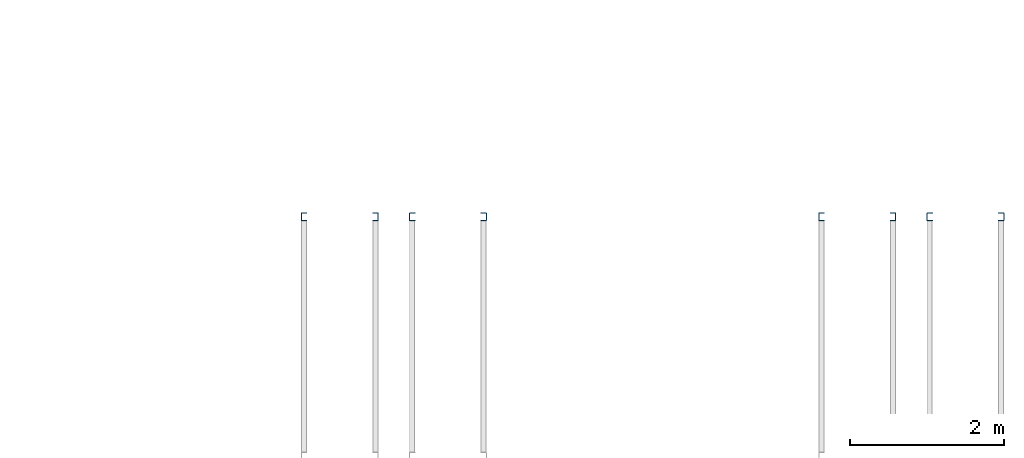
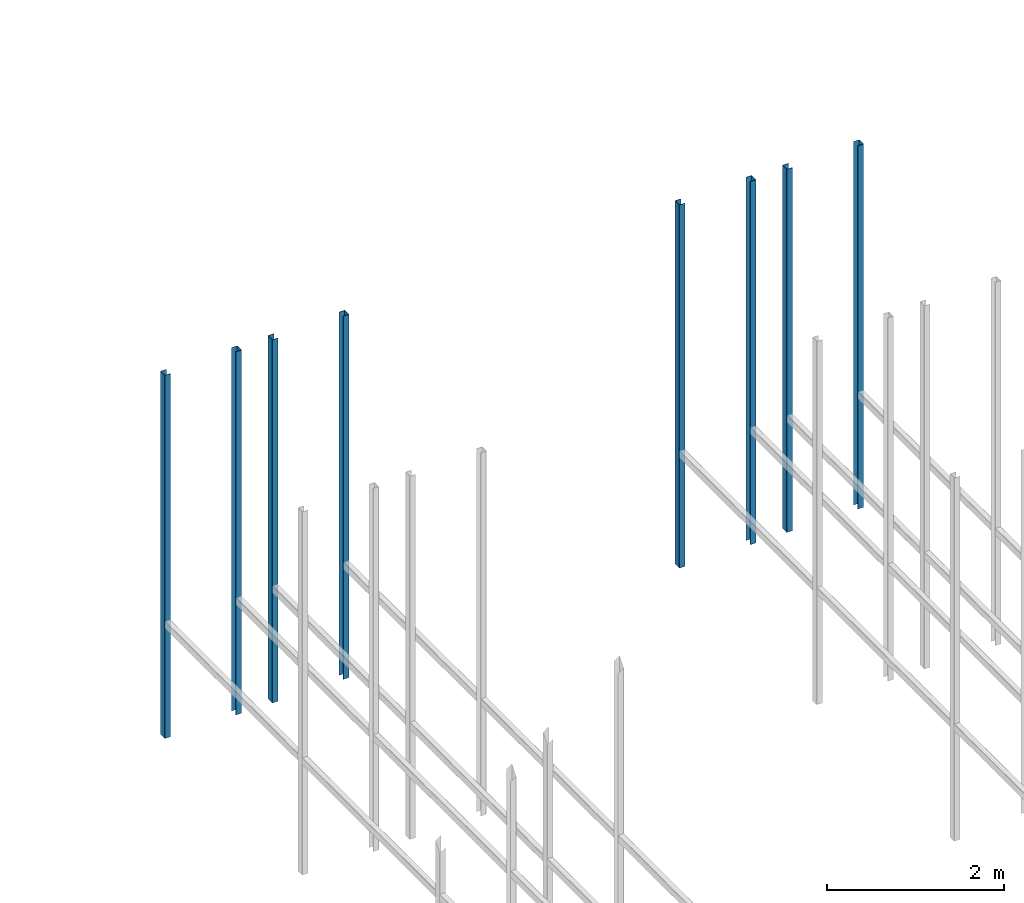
# One storey, part 64 of 302: 8 columns.
"""IFC2X3 building model written with IfcOpenShell, lengths in metres."""

from ifc_helpers import new_model, entity, si_unit, converted_unit, derived_unit, direction, frame, frame_2d, origin, place, context, subcontext, project, spatial, polyline, circle_curve, parameter, trimmed, segment, composite_curve, outline, extrude, source, transform, mapped, material, type_object, type_shapes, element, save


model = new_model("IFC2X3")

# Units and contexts
model_context = context("Model", 3, precision=1e-05, world=origin(), true_north=direction((6.12303176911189e-17, 1.0)))
body_context = subcontext(model_context, "Body", "Model", "MODEL_VIEW")
ifc_project = project(units=[si_unit("LENGTHUNIT", "METRE"), si_unit("AREAUNIT", "SQUARE_METRE"), si_unit("VOLUMEUNIT", "CUBIC_METRE"), converted_unit("PLANEANGLEUNIT", "DEGREE", entity("IfcRatioMeasure", 0.0174532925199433), si_unit("PLANEANGLEUNIT", "RADIAN"), dimensions=[0, 0, 0, 0, 0, 0, 0]), si_unit("MASSUNIT", "GRAM", prefix="KILO"), derived_unit("MASSDENSITYUNIT", [(si_unit("MASSUNIT", "GRAM", prefix="KILO"), 1), (si_unit("LENGTHUNIT", "METRE"), -3)]), derived_unit("MOMENTOFINERTIAUNIT", [(si_unit("LENGTHUNIT", "METRE"), 4)]), si_unit("TIMEUNIT", "SECOND"), si_unit("FREQUENCYUNIT", "HERTZ"), si_unit("THERMODYNAMICTEMPERATUREUNIT", "DEGREE_CELSIUS"), derived_unit("THERMALTRANSMITTANCEUNIT", [(si_unit("MASSUNIT", "GRAM", prefix="KILO"), 1), (si_unit("THERMODYNAMICTEMPERATUREUNIT", "KELVIN"), -1), (si_unit("TIMEUNIT", "SECOND"), -3)]), derived_unit("VOLUMETRICFLOWRATEUNIT", [(si_unit("LENGTHUNIT", "METRE"), 3), (si_unit("TIMEUNIT", "SECOND"), -1)]), si_unit("ELECTRICCURRENTUNIT", "AMPERE"), si_unit("ELECTRICVOLTAGEUNIT", "VOLT"), si_unit("POWERUNIT", "WATT"), si_unit("FORCEUNIT", "NEWTON", prefix="KILO"), si_unit("ILLUMINANCEUNIT", "LUX"), si_unit("LUMINOUSFLUXUNIT", "LUMEN"), si_unit("LUMINOUSINTENSITYUNIT", "CANDELA"), derived_unit("USERDEFINED", [(si_unit("MASSUNIT", "GRAM", prefix="KILO"), -1), (si_unit("LENGTHUNIT", "METRE"), -2), (si_unit("TIMEUNIT", "SECOND"), 3), (si_unit("LUMINOUSFLUXUNIT", "LUMEN"), 1)]), derived_unit("LINEARVELOCITYUNIT", [(si_unit("LENGTHUNIT", "METRE"), 1), (si_unit("TIMEUNIT", "SECOND"), -1)]), si_unit("PRESSUREUNIT", "PASCAL"), derived_unit("USERDEFINED", [(si_unit("LENGTHUNIT", "METRE"), -2), (si_unit("MASSUNIT", "GRAM", prefix="KILO"), 1), (si_unit("TIMEUNIT", "SECOND"), -2)]), derived_unit("LINEARFORCEUNIT", [(si_unit("MASSUNIT", "GRAM", prefix="KILO"), 1), (si_unit("LENGTHUNIT", "METRE"), 1), (si_unit("TIMEUNIT", "SECOND"), -2), (si_unit("LENGTHUNIT", "METRE"), -1)]), derived_unit("PLANARFORCEUNIT", [(si_unit("MASSUNIT", "GRAM", prefix="KILO"), 1), (si_unit("LENGTHUNIT", "METRE"), 1), (si_unit("TIMEUNIT", "SECOND"), -2), (si_unit("LENGTHUNIT", "METRE"), -2)])], contexts=[model_context])

# Site, building, storey
site_placement = place(None, origin())
site = spatial("IfcSite", under=ifc_project, at=site_placement, Name="Default", CompositionType="ELEMENT")
building_placement = place(site_placement, origin())
building = spatial("IfcBuilding", under=site, at=building_placement, CompositionType="ELEMENT")
storey_placement = place(building_placement, frame((0.0, 0.0, -1.3)))
storey = spatial("IfcBuildingStorey", under=building, at=storey_placement, Name="00_EG", CompositionType="ELEMENT", Elevation=-1.3)

# Columns
ifc_material = material(Name="Metall - Baustahl S235")
column_type_1 = type_object("IfcColumnType", Name="Leichter Stahl Schlossschrauben Stütze:C 100", PredefinedType="COLUMN", material=ifc_material)
shared_shape_1 = source(origin(), body_context, "Body", "SweptSolid", [
    extrude(outline(composite_curve([segment(polyline([(-0.0469749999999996, -0.0499999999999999), (0.0214500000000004, -0.0499999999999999)]), True, "CONTINUOUS"), segment(trimmed(circle_curve(frame_2d((0.0214500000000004, -0.0434249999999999), x_axis=(0.0, -1.0)), 0.00657500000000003), [parameter(0.0)], [parameter(89.9999999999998)], True, "PARAMETER"), True, "CONTINUOUS"), segment(polyline([(0.0280250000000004, -0.0434249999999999), (0.0280250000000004, 0.0434250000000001)]), True, "CONTINUOUS"), segment(trimmed(circle_curve(frame_2d((0.0214500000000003, 0.0434250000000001), x_axis=(1.0, 0.0)), 0.0065750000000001), [parameter(0.0)], [parameter(89.9999999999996)], True, "PARAMETER"), True, "CONTINUOUS"), segment(polyline([(0.0214500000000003, 0.0500000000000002), (-0.0469750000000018, 0.0500000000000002)]), True, "CONTINUOUS"), segment(polyline([(-0.0469750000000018, 0.0500000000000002), (-0.0469750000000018, 0.0450000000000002)]), True, "CONTINUOUS"), segment(polyline([(-0.0469750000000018, 0.0450000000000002), (0.0214500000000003, 0.0450000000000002)]), True, "CONTINUOUS"), segment(trimmed(circle_curve(frame_2d((0.0214500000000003, 0.0434249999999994), x_axis=(0.0, 1.0)), 0.00157500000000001), [parameter(269.999999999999)], [parameter(0.0)], True, "PARAMETER"), False, "CONTINUOUS"), segment(polyline([(0.0230250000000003, 0.0434249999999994), (0.0230250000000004, -0.0434249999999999)]), True, "CONTINUOUS"), segment(trimmed(circle_curve(frame_2d((0.0214500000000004, -0.0434249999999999), x_axis=(1.0, 0.0)), 0.00157500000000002), [parameter(270.0)], [parameter(0.0)], True, "PARAMETER"), False, "CONTINUOUS"), segment(polyline([(0.0214500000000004, -0.0449999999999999), (-0.0469749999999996, -0.0449999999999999)]), True, "CONTINUOUS"), segment(polyline([(-0.0469749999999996, -0.0449999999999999), (-0.0469749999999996, -0.0499999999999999)]), True, "CONTINUOUS")], self_intersect=False)), frame((0.0499999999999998, 0.0280250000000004, -0.0300000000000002), z_axis=(0.0, 0.0, 1.0), x_axis=(0.0, -1.0, 0.0)), (0.0, 0.0, 1.0), 5.0),
])
type_shapes(column_type_1, [shared_shape_1])
for number, where, z_axis, x_axis in (
    (1, (-159.193311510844, 63.8480889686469, 1.3), (0.0, 0.0, 1.0), (0.0, -1.0, 0.0)),
    (2, (-157.793311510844, 63.8480889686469, 1.3), (0.0, 0.0, 1.0), (0.0, -1.0, 0.0)),
    (3, (-152.493311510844, 63.8480889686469, 1.3), (0.0, 0.0, 1.0), (0.0, -1.0, 0.0)),
    (4, (-151.093311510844, 63.8480889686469, 1.3), (0.0, 0.0, 1.0), (0.0, -1.0, 0.0)),
):
    element("IfcColumn", number, at=place(storey_placement, frame(where, z_axis=z_axis, x_axis=x_axis)), inside=storey, type_object=column_type_1, material=ifc_material, Name="Leichter Stahl Schlossschrauben Stütze:C 100", ObjectType="Leichter Stahl Schlossschrauben Stütze:C 100", context=body_context, shape_type="MappedRepresentation", body=[
        mapped(shared_shape_1, transform((0.0, 0.0, 0.0), scale=1.0)),
    ])
column_type_2 = type_object("IfcColumnType", Name="Leichter Stahl Schlossschrauben Stütze:C 100", PredefinedType="COLUMN", material=ifc_material)
shared_shape_2 = source(origin(), body_context, "Body", "SweptSolid", [
    extrude(outline(composite_curve([segment(polyline([(-0.0214500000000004, -0.0499999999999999), (0.0469749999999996, -0.0499999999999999)]), True, "CONTINUOUS"), segment(polyline([(0.0469749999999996, -0.0499999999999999), (0.0469749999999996, -0.0449999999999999)]), True, "CONTINUOUS"), segment(polyline([(0.0469749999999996, -0.0449999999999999), (-0.0214500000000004, -0.045)]), True, "CONTINUOUS"), segment(trimmed(circle_curve(frame_2d((-0.0214500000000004, -0.043425), x_axis=(0.0, -1.0)), 0.00157500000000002), [parameter(270.0)], [parameter(0.0)], True, "PARAMETER"), False, "CONTINUOUS"), segment(polyline([(-0.0230250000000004, -0.0434249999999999), (-0.0230250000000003, 0.0434249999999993)]), True, "CONTINUOUS"), segment(trimmed(circle_curve(frame_2d((-0.0214500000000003, 0.0434249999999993), x_axis=(-1.0, 0.0)), 0.00157500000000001), [parameter(269.999999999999)], [parameter(0.0)], True, "PARAMETER"), False, "CONTINUOUS"), segment(polyline([(-0.0214500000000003, 0.0450000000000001), (0.0469750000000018, 0.0450000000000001)]), True, "CONTINUOUS"), segment(polyline([(0.0469750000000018, 0.0450000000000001), (0.0469750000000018, 0.0500000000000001)]), True, "CONTINUOUS"), segment(polyline([(0.0469750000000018, 0.0500000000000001), (-0.0214500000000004, 0.0500000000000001)]), True, "CONTINUOUS"), segment(trimmed(circle_curve(frame_2d((-0.0214500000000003, 0.043425), x_axis=(0.0, 1.0)), 0.0065750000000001), [parameter(0.0)], [parameter(89.9999999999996)], True, "PARAMETER"), True, "CONTINUOUS"), segment(polyline([(-0.0280250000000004, 0.043425), (-0.0280250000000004, -0.043425)]), True, "CONTINUOUS"), segment(trimmed(circle_curve(frame_2d((-0.0214500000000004, -0.0434249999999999), x_axis=(-1.0, 0.0)), 0.00657500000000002), [parameter(0.0)], [parameter(89.9999999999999)], True, "PARAMETER"), True, "CONTINUOUS")], self_intersect=False)), frame((0.0499999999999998, -0.0280250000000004, -0.0300000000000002), z_axis=(0.0, 0.0, 1.0), x_axis=(0.0, -1.0, 0.0)), (0.0, 0.0, 1.0), 5.0),
])
type_shapes(column_type_2, [shared_shape_2])
for number, where, z_axis, x_axis in (
    (5, (-158.193311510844, 63.8480889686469, 1.3), (0.0, 0.0, 1.0), (0.0, -1.0, 0.0)),
    (6, (-156.793311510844, 63.8480889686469, 1.3), (0.0, 0.0, 1.0), (0.0, -1.0, 0.0)),
    (7, (-151.493311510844, 63.8480889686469, 1.3), (0.0, 0.0, 1.0), (0.0, -1.0, 0.0)),
    (8, (-150.093311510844, 63.8480889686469, 1.3), (0.0, 0.0, 1.0), (0.0, -1.0, 0.0)),
):
    element("IfcColumn", number, at=place(storey_placement, frame(where, z_axis=z_axis, x_axis=x_axis)), inside=storey, type_object=column_type_2, material=ifc_material, Name="Leichter Stahl Schlossschrauben Stütze:C 100", ObjectType="Leichter Stahl Schlossschrauben Stütze:C 100", context=body_context, shape_type="MappedRepresentation", body=[
        mapped(shared_shape_2, transform((0.0, 0.0, 0.0), scale=1.0)),
    ])

save(model, "model.ifc")
